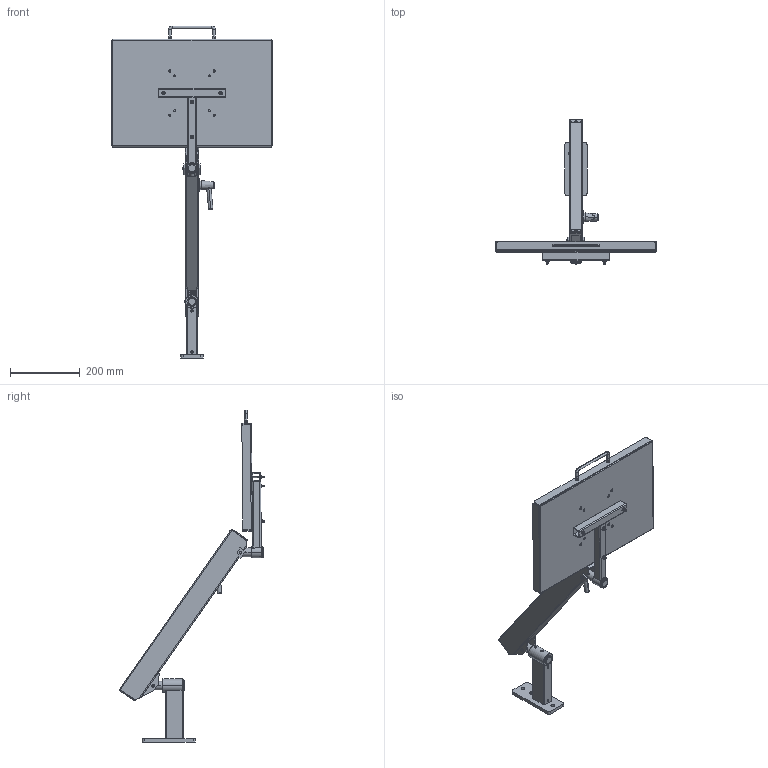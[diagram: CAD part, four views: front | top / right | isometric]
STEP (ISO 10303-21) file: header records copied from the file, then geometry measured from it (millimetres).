
FILE_DESCRIPTION (( 'STEP AP203' ), '1' );
FILE_NAME ('70-0726-00 REV AA, 18in FLEX SYSTEM, TOOL TRAY, WALL MOUNT W EXT - ANGLE DOWN.STEP', '2025-09-16T23:21:46', ( '' ), ( '' ), 'SwSTEP 2.0', 'SolidWorks 2025', '' );
FILE_SCHEMA (( 'CONFIG_CONTROL_DESIGN' ));
Length unit declared in the file: inch
Products named in the file (52): 71-0031-RX REV AA, KNUCKLE, MOUNT_MACHINE; 002-100-00, BHSCS, 8-32x.375_002-100-00; 007-031-00_007-031-00; 71-0029-RX REV AA, TAB, LOAD; 016-070-00, BEARING, PLASTIC, .5ID x .625 OD x .75; 71-1800-RX REV AA, HOUSING, 18in FLEX; 71-0040-RX REV AA, BRAKE BLOCK, WIDE_MACHINE; 006-008-00, NUT, HEX, 10-32 x .125_006-008-00; 71-3033-99 REV AA, BOLT, ADJUSTING, 15.250; 71-1801-BLKX REV AA, FLEX HOUSING, 18in, BLACK; 70-0726-00 REV AA, 18in FLEX SYSTEM, TOOL TRAY, WALL MOUNT W EXT - ANGLE DOWN; 71-0052-RX REV AA, HOUSING, T AND STRAIGHT BAR CROSS SECTION_MACHINE; 11-0650-00 REV AA, BRAKE HANDLE ASSEMBLY; 010-012-00, RETAINING RING, EXTERNAL, .875in SHAFT; 11-0602-RX REV AA, HANDLE, BRAKE ASSEMBLY; 025-067-00, HANDLE, U SHAPED, 8-32; 005-084-00, BOLT, 1''4-20x2.75; 71-0071-RX REV AA, AXLE PIN, LONG; 004-050-00, WASHER, FIBER, .032 THK, .265ID; 71-2032-RX REV AA, SPRING ROD, 18in FLEX; 11-0601-99 REV AA, CONICAL KNOB, BRAKE ASSEMBLY; 70-0401-00 REV AA, 18x12 SUPPORT TRAY ASSEMBLY; 71-0070-RX REV AA, AXLE PIN, SHORT; 016-008-00, OILITE PLUS BEARING, 0.876 id x 1.002 od x 1.25 lg; 71-0038-RX REV AA, PIVOT, KNUCKLE, ELECTROLESS NICKEL; 70-0095-00 REV AA, STUD MOUNT, 6in EXT; 11-0401-00 REV AA, 18x12 TOOL TRAY, BLACK; 71-0013-RX REV AA, HOUSING, BEARING, SHORT_MACHINE; 71-0037-RX REV AA, PIVOT, THREADED; 002-041-00_002-041-00; 71-0047-RX REV AA, HOUSING, T AND STRAIGHT BAR_MACHINE; 11-0027-RX REV AA, PLASTIC DISC, BRAKE ASSEMBLY_MACHINE; 013-314-00, SPRING, GOLD, 1x12; 71-0091-RX REV AA, HOUSING, WALL MOUNT, 6in EXTENSION; 007-036-00, SHSS, 1''4-28, .25L_007-036-00; 010-011-00, RETAINING RING, EXT, .250 SHAFT_010-011-00; 11-020-RX REV AA, PIN, KNURLED, 1.0LG x .25OD; 016-007-00, OILITE PLUS BEARING, 0.876 id x 1.002 od x 0.75 lg; 71-0217-RX REV AA, PLATE, NARROW WALL MOUNT_Laser; 71-1051-RX REV AA, SPRING BLOCK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
Assembly tree (80 placements, depth 4):
  70-0726-00 REV AA, 18in FLEX SYSTEM, TOOL TRAY, WALL MOUNT W EXT - ANGLE DOWN
    70-0095-00 REV AA, STUD MOUNT, 6in EXT
      71-0217-RX REV AA, PLATE, NARROW WALL MOUNT_Laser
      71-0091-RX REV AA, HOUSING, WALL MOUNT, 6in EXTENSION
      71-2113-RX REV AA, HOUSING, BEARING, TALL, 1.5OD_MACHINE
      016-007-00, OILITE PLUS BEARING, 0.876 id x 1.002 od x 0.75 lg
      016-008-00, OILITE PLUS BEARING, 0.876 id x 1.002 od x 1.25 lg
      007-036-00, SHSS, 1''4-28, .25L_007-036-00
    70-0401-00 REV AA, 18x12 SUPPORT TRAY ASSEMBLY
      11-0401-00 REV AA, 18x12 TOOL TRAY, BLACK
      70-0050-00 REV AA, T BAR
        71-0047-RX REV AA, HOUSING, T AND STRAIGHT BAR_MACHINE
        71-0013-RX REV AA, HOUSING, BEARING, SHORT_MACHINE
        71-0052-RX REV AA, HOUSING, T AND STRAIGHT BAR CROSS SECTION_MACHINE
        016-008-00, OILITE PLUS BEARING, 0.876 id x 1.002 od x 1.25 lg
        007-031-00_007-031-00
      002-091-00, FHSCS, 10-32x1.5, BO_002-091-00  x4
      006-008-00, NUT, HEX, 10-32 x .125_006-008-00  x4
      025-067-00, HANDLE, U SHAPED, 8-32
      002-100-00, BHSCS, 8-32x.375_002-100-00  x2
      11-0450-00 REV AA, FOAM, YELLOW, 18x12
    70-1826-00 REV AA, FLEX SECTION, 18in, 3-26 LB
      71-0031-RX REV AA, KNUCKLE, MOUNT_MACHINE
      71-2032-RX REV AA, SPRING ROD, 18in FLEX
      71-0030-RX REV AA, KNUCKLE, LOAD_MACHINE
      71-0038-RX REV AA, PIVOT, KNUCKLE, ELECTROLESS NICKEL
      71-3033-99 REV AA, BOLT, ADJUSTING, 15.250
      71-0040-RX REV AA, BRAKE BLOCK, WIDE_MACHINE
      11-0027-RX REV AA, PLASTIC DISC, BRAKE ASSEMBLY_MACHINE
      71-1051-RX REV AA, SPRING BLOCK
      71-0037-RX REV AA, PIVOT, THREADED
      71-0972-99 REV AA, END CAP, FLEX  x2
      11-0650-00 REV AA, BRAKE HANDLE ASSEMBLY
        11-0601-99 REV AA, CONICAL KNOB, BRAKE ASSEMBLY
        11-0602-RX REV AA, HANDLE, BRAKE ASSEMBLY
        11-0027-RX REV AA, PLASTIC DISC, BRAKE ASSEMBLY_MACHINE
        005-084-00, BOLT, 1''4-20x2.75
      71-0071-RX REV AA, AXLE PIN, LONG
      71-1801-BLKX REV AA, FLEX HOUSING, 18in, BLACK
        71-1800-RX REV AA, HOUSING, 18in FLEX
        71-0029-RX REV AA, TAB, LOAD  x2
        71-0028-RX REV AA, TAB, MOUNT_MACHINE  x2
      71-0070-RX REV AA, AXLE PIN, SHORT
      010-011-00, RETAINING RING, EXT, .250 SHAFT_010-011-00  x4
      002-041-00_002-041-00  x2
      010-012-00, RETAINING RING, EXTERNAL, .875in SHAFT  x2
      11-020-RX REV AA, PIN, KNURLED, 1.0LG x .25OD  x2
      011-033-00
      004-144-00  x3
      013-314-00, SPRING, GOLD, 1x12
      016-070-00, BEARING, PLASTIC, .5ID x .625 OD x .75  x2
      006-059-00
      006-004-00_006-004-00  x2
      004-050-00, WASHER, FIBER, .032 THK, .265ID  x8
Bounding box: 461.77 x 417.49 x 953.36 mm (x, y, z)
Volume: 1747765.3 mm3; surface area: 1212877.7 mm2
Topology: 76 solids, 76 shells, 2043 faces, 4964 edges, 3065 vertices
Faces by surface type: cylinder 908, plane 561, cone 423, torus 89, bspline 52, sphere 10
Entity records: 82381 total; most frequent: CARTESIAN_POINT 46773, ORIENTED_EDGE 6160, DIRECTION 6084, EDGE_CURVE 3080, AXIS2_PLACEMENT_3D 2355, VERTEX_POINT 1911, EDGE_LOOP 1415, VECTOR 1374
